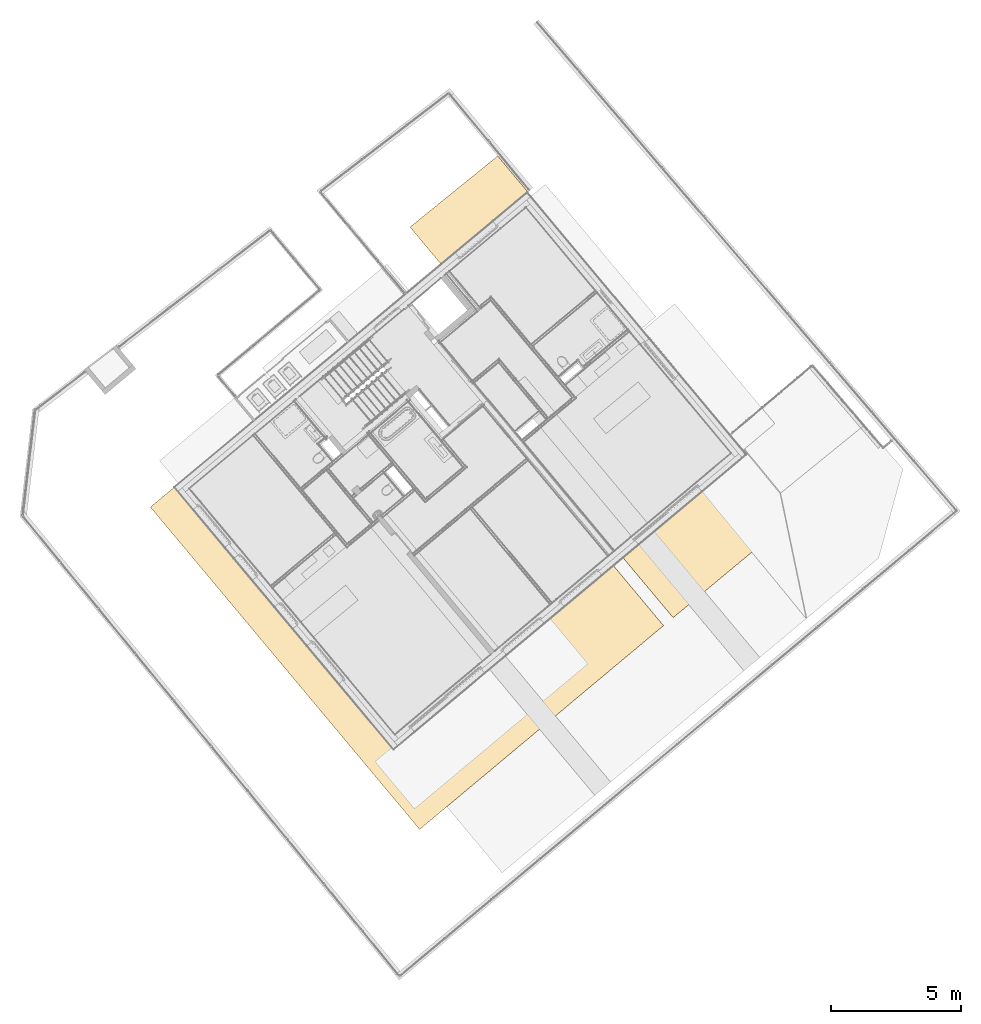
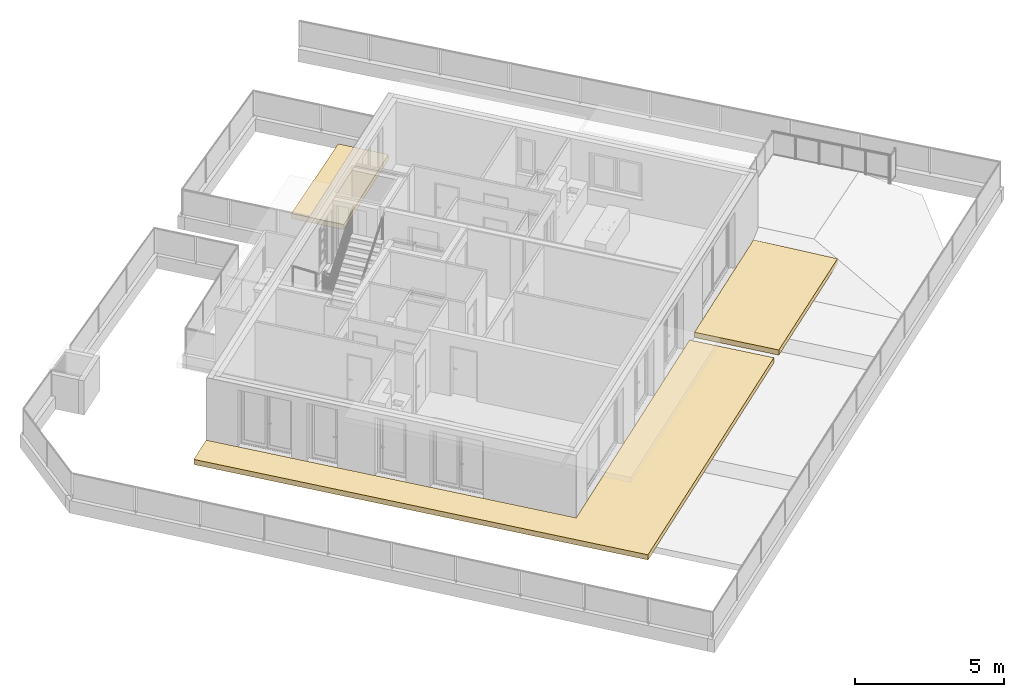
# One storey, part 58 of 67: 3 coverings.
"""IFC4 building model written with IfcOpenShell, lengths in metres."""

from ifc_helpers import new_model, entity, si_unit, converted_unit, derived_unit, direction, frame, origin_with_axes, place, context, subcontext, project, spatial, polygons, material, type_object, element, save


model = new_model("IFC4")

# Units and contexts
model_context = context("Model", 3, precision=1e-05, world=origin_with_axes(), true_north=direction((0.0, 1.0)))
body_context = subcontext(model_context, "Body", "Model", "MODEL_VIEW")
ifc_project = project(units=[si_unit("LENGTHUNIT", "METRE"), si_unit("AREAUNIT", "SQUARE_METRE"), si_unit("VOLUMEUNIT", "CUBIC_METRE"), converted_unit("PLANEANGLEUNIT", "DEGREE", entity("IfcPlaneAngleMeasure", 0.0174532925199), si_unit("PLANEANGLEUNIT", "RADIAN"), dimensions=[0, 0, 0, 0, 0, 0, 0]), converted_unit("TIMEUNIT", "Year", entity("IfcTimeMeasure", 31556926.0), si_unit("TIMEUNIT", "SECOND"), dimensions=[0, 0, 1, 0, 0, 0, 0]), si_unit("MASSUNIT", "GRAM", prefix="KILO"), si_unit("THERMODYNAMICTEMPERATUREUNIT", "DEGREE_CELSIUS"), si_unit("LUMINOUSINTENSITYUNIT", "LUMEN"), si_unit("ENERGYUNIT", "JOULE", prefix="MEGA"), derived_unit("THERMALCONDUCTANCEUNIT", [(si_unit("POWERUNIT", "WATT"), 1), (si_unit("LENGTHUNIT", "METRE"), -1), (si_unit("THERMODYNAMICTEMPERATUREUNIT", "KELVIN"), -1)]), derived_unit("SPECIFICHEATCAPACITYUNIT", [(si_unit("ENERGYUNIT", "JOULE"), 1), (si_unit("MASSUNIT", "GRAM", prefix="KILO"), -1), (si_unit("THERMODYNAMICTEMPERATUREUNIT", "KELVIN"), -1)]), derived_unit("MASSDENSITYUNIT", [(si_unit("MASSUNIT", "GRAM", prefix="KILO"), 1), (si_unit("VOLUMEUNIT", "CUBIC_METRE"), -1)])], contexts=[model_context])

# Site, building, storey
site_placement = place(None, frame((-0.00153261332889, -0.00661245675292, 0.0), z_axis=(0.0, 0.0, 1.0), x_axis=(1.0, 0.0, 0.0)))
site = spatial("IfcSite", under=ifc_project, at=site_placement, Name="Site", CompositionType="ELEMENT")
building_placement = place(site_placement, origin_with_axes())
building = spatial("IfcBuilding", under=site, at=building_placement, Name="Building", CompositionType="ELEMENT")
storey_placement = place(building_placement, frame((0.0, 0.0, -0.22), z_axis=(0.0, 0.0, 1.0), x_axis=(1.0, 0.0, 0.0)))
storey = spatial("IfcBuildingStorey", under=building, at=storey_placement, Name="EG", CompositionType="ELEMENT", Elevation=-0.22)

# Coverings
ifc_material = material(Name="Platten")
covering_type = type_object("IfcCoveringType", Name="Platten 210", PredefinedType="NOTDEFINED")
covering_1_placement = place(storey_placement, frame((-8.68307438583, 19.0183290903, 0.21), z_axis=(0.0, 0.0, 1.0), x_axis=(1.0, 0.0, 0.0)))
element("IfcCovering", 1, at=covering_1_placement, inside=storey, type_object=covering_type, material=ifc_material, Name="Decke-005", PredefinedType="NOTDEFINED", context=body_context, shape_type="Tessellation", body=[
    polygons([(-0.921366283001, -0.769892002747, -0.21), (-0.921366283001, -0.769892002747, 0.0), (0.0, 0.0, 0.0), (0.0, 0.0, -0.21), (9.46793392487, -13.2032604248, -0.21), (9.46793392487, -13.2032604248, 0.0), (18.8770380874, -5.34102997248, 0.0), (16.9489500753, -3.03339278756, 0.0), (8.46573122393, -10.1313421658, 0.0), (8.46573122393, -10.1313421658, -0.21), (18.8770380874, -5.34102997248, -0.21), (16.9489500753, -3.03339278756, -0.21)], [[[1, 2, 3, 4]], [[5, 6, 2, 1]], [[7, 8, 9, 3, 2, 6]], [[4, 3, 9, 10]], [[11, 5, 1, 4, 10, 12]], [[11, 7, 6, 5]], [[12, 8, 7, 11]], [[10, 9, 8, 12]]], closed=True),
])
covering_2_placement = place(storey_placement, frame((8.63234247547, 16.2915607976, 0.21), z_axis=(0.0, 0.0, 1.0), x_axis=(1.0, 0.0, 0.0)))
element("IfcCovering", 2, at=covering_2_placement, inside=storey, type_object=covering_type, material=ifc_material, Name="Decke-005", PredefinedType="NOTDEFINED", context=body_context, shape_type="Tessellation", body=[
    polygons([(6.29745851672, 1.32507947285, -0.21), (5.44170004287, 2.39914892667, -0.21), (5.44170004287, 2.39914892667, -0.0020668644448), (5.20135821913, 2.70080391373, 0.0), (6.29745851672, 1.32507947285, 0.0), (5.36804167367, 1.8907825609, -0.21), (5.40603188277, 2.08656709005, -0.21), (5.43278302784, 2.28420113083, -0.21), (1.93072055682, -2.30799816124, -0.21), (0.0, 0.0, -0.21), (4.41541613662, 3.68724624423, -0.21), (5.01847482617, 2.93034235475, -0.21), (5.02564075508, 2.85428504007, -0.21), (5.03209902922, 2.67896451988, -0.21), (5.02853793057, 2.50356123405, -0.21), (5.01496907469, 2.32864731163, -0.21), (4.99143672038, 2.15479328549, -0.21), (4.97455909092, 2.06781353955, -0.21), (5.30774161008, 1.66203871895, -0.21), (5.3189363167, 1.69748615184, -0.21), (5.43278302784, 2.28420113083, -0.0311248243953), (5.3189363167, 1.69748615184, -0.198663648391), (4.99143672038, 2.15479328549, -0.185162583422), (5.01496907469, 2.32864731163, -0.138387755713), (5.02853793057, 2.50356123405, -0.0941707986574), (5.03209902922, 2.67896451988, -0.0526559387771), (5.02564075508, 2.85428504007, -0.0139785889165), (5.01919953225, 2.92265051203, 0.0), (5.40603188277, 2.08656709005, -0.0842975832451), (5.36804167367, 1.8907825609, -0.140204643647), (1.93072055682, -2.30799816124, 0.0), (5.01847482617, 2.93034235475, 0.0), (4.41541613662, 3.68724624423, 0.0), (0.0, 0.0, 0.0)], [[[1, 2, 3, 4, 5]], [[6, 7, 8, 2, 1, 9, 10, 11, 12, 13, 14, 15, 16, 17, 18, 19, 20]], [[8, 21, 3, 2]], [[22, 19, 18, 23, 24, 25, 26, 27, 28, 4, 3, 21, 29, 30]], [[31, 5, 4, 28, 32, 33, 34]], [[1, 5, 31, 9]], [[30, 29, 7, 6]], [[29, 21, 8, 7]], [[9, 31, 34, 10]], [[10, 34, 33, 11]], [[11, 33, 32, 12]], [[28, 27, 13, 12, 32]], [[27, 26, 14, 13]], [[26, 25, 15, 14]], [[25, 24, 16, 15]], [[24, 23, 17, 16]], [[17, 23, 18]], [[19, 22, 20]], [[22, 30, 6, 20]]], closed=True),
])
covering_3_placement = place(storey_placement, frame((0.411191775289, 29.0514209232, 0.21), z_axis=(0.0, 0.0, 1.0), x_axis=(1.0, 0.0, 0.0)))
element("IfcCovering", 3, at=covering_3_placement, inside=storey, type_object=covering_type, material=ifc_material, Name="Decke-005", PredefinedType="NOTDEFINED", context=body_context, shape_type="Tessellation", body=[
    polygons([(0.0, 0.0, 0.0), (0.0, 0.0, -0.21), (1.19760113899, -1.43322609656, -0.21), (1.19760113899, -1.43322609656, 0.0), (3.38644480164, 2.7448147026, 0.0), (3.38644480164, 2.7448147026, -0.21), (4.54219626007, 1.36152822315, -0.21), (4.54219626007, 1.36152822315, 0.0)], [[[1, 2, 3, 4]], [[5, 6, 2, 1]], [[3, 2, 6, 7]], [[4, 3, 7, 8]], [[5, 1, 4, 8]], [[8, 7, 6, 5]]], closed=True),
])

save(model, "model.ifc")
